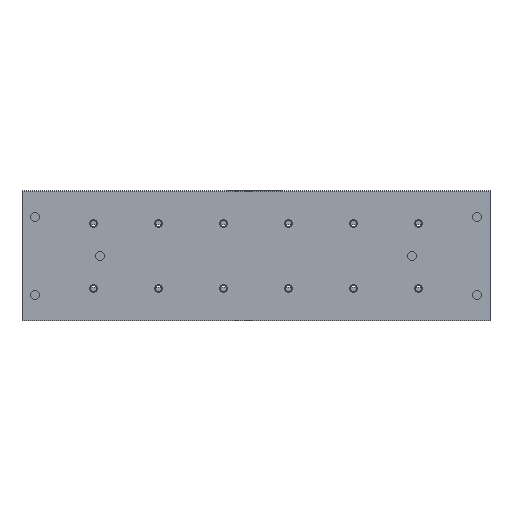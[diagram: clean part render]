
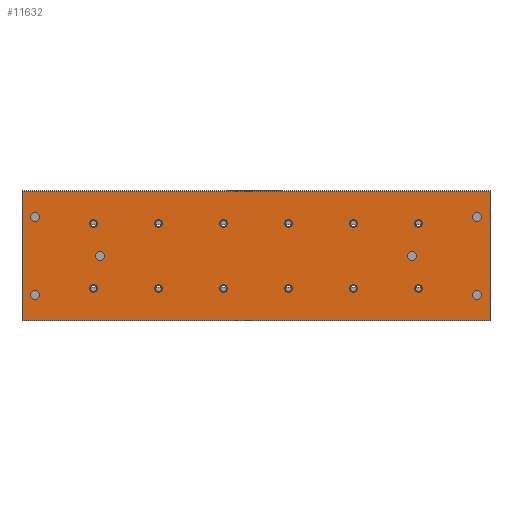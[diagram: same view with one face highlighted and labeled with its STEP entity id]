
A CAD part, front view. The second image highlights one B-rep face of the part: STEP entity #11632.
In plain terms, the highlighted planar face has unit normal (0, -1, 0).
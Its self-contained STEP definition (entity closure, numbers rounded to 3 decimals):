
#406=CIRCLE('',#12334,3.);
#407=CIRCLE('',#12335,3.);
#408=CIRCLE('',#12336,3.);
#409=CIRCLE('',#12337,3.);
#410=CIRCLE('',#12338,3.);
#411=CIRCLE('',#12339,3.);
#412=CIRCLE('',#12340,3.);
#413=CIRCLE('',#12341,3.);
#414=CIRCLE('',#12342,3.);
#415=CIRCLE('',#12343,3.);
#416=CIRCLE('',#12344,3.);
#417=CIRCLE('',#12345,3.);
#418=CIRCLE('',#12346,3.5);
#419=CIRCLE('',#12347,3.5);
#420=CIRCLE('',#12348,3.5);
#421=CIRCLE('',#12349,3.5);
#422=CIRCLE('',#12350,3.5);
#423=CIRCLE('',#12351,3.5);
#1224=ORIENTED_EDGE('',*,*,#4741,.F.);
#1225=ORIENTED_EDGE('',*,*,#4742,.F.);
#1226=ORIENTED_EDGE('',*,*,#4743,.F.);
#1227=ORIENTED_EDGE('',*,*,#4744,.F.);
#1228=ORIENTED_EDGE('',*,*,#4745,.F.);
#1229=ORIENTED_EDGE('',*,*,#4746,.F.);
#1230=ORIENTED_EDGE('',*,*,#4747,.F.);
#1231=ORIENTED_EDGE('',*,*,#4748,.F.);
#1232=ORIENTED_EDGE('',*,*,#4749,.F.);
#1233=ORIENTED_EDGE('',*,*,#4750,.F.);
#1234=ORIENTED_EDGE('',*,*,#4751,.F.);
#1235=ORIENTED_EDGE('',*,*,#4752,.F.);
#1236=ORIENTED_EDGE('',*,*,#4753,.F.);
#1237=ORIENTED_EDGE('',*,*,#4754,.F.);
#1238=ORIENTED_EDGE('',*,*,#4755,.T.);
#1239=ORIENTED_EDGE('',*,*,#4756,.F.);
#1240=ORIENTED_EDGE('',*,*,#4757,.F.);
#1241=ORIENTED_EDGE('',*,*,#4758,.F.);
#1242=ORIENTED_EDGE('',*,*,#4695,.T.);
#1243=ORIENTED_EDGE('',*,*,#4759,.F.);
#1244=ORIENTED_EDGE('',*,*,#4760,.F.);
#1245=ORIENTED_EDGE('',*,*,#4739,.T.);
#4695=EDGE_CURVE('',#6460,#6459,#7643,.T.);
#4739=EDGE_CURVE('',#6494,#6460,#7687,.T.);
#4741=EDGE_CURVE('',#6495,#6495,#406,.T.);
#4742=EDGE_CURVE('',#6496,#6496,#407,.T.);
#4743=EDGE_CURVE('',#6497,#6497,#408,.T.);
#4744=EDGE_CURVE('',#6498,#6498,#409,.T.);
#4745=EDGE_CURVE('',#6499,#6499,#410,.T.);
#4746=EDGE_CURVE('',#6500,#6500,#411,.T.);
#4747=EDGE_CURVE('',#6501,#6501,#412,.T.);
#4748=EDGE_CURVE('',#6502,#6502,#413,.T.);
#4749=EDGE_CURVE('',#6503,#6503,#414,.T.);
#4750=EDGE_CURVE('',#6504,#6504,#415,.T.);
#4751=EDGE_CURVE('',#6505,#6505,#416,.T.);
#4752=EDGE_CURVE('',#6506,#6506,#417,.T.);
#4753=EDGE_CURVE('',#6507,#6507,#418,.T.);
#4754=EDGE_CURVE('',#6508,#6508,#419,.T.);
#4755=EDGE_CURVE('',#6509,#6509,#420,.T.);
#4756=EDGE_CURVE('',#6510,#6510,#421,.T.);
#4757=EDGE_CURVE('',#6511,#6511,#422,.T.);
#4758=EDGE_CURVE('',#6512,#6512,#423,.T.);
#4759=EDGE_CURVE('',#6513,#6459,#7689,.T.);
#4760=EDGE_CURVE('',#6494,#6513,#7690,.T.);
#6459=VERTEX_POINT('',#17646);
#6460=VERTEX_POINT('',#17648);
#6494=VERTEX_POINT('',#17733);
#6495=VERTEX_POINT('',#17737);
#6496=VERTEX_POINT('',#17739);
#6497=VERTEX_POINT('',#17741);
#6498=VERTEX_POINT('',#17743);
#6499=VERTEX_POINT('',#17745);
#6500=VERTEX_POINT('',#17747);
#6501=VERTEX_POINT('',#17749);
#6502=VERTEX_POINT('',#17751);
#6503=VERTEX_POINT('',#17753);
#6504=VERTEX_POINT('',#17755);
#6505=VERTEX_POINT('',#17757);
#6506=VERTEX_POINT('',#17759);
#6507=VERTEX_POINT('',#17761);
#6508=VERTEX_POINT('',#17763);
#6509=VERTEX_POINT('',#17765);
#6510=VERTEX_POINT('',#17767);
#6511=VERTEX_POINT('',#17769);
#6512=VERTEX_POINT('',#17771);
#6513=VERTEX_POINT('',#17773);
#7643=LINE('',#17647,#8675);
#7687=LINE('',#17732,#8719);
#7689=LINE('',#17772,#8721);
#7690=LINE('',#17774,#8722);
#8675=VECTOR('',#13770,1000.);
#8719=VECTOR('',#13828,1000.);
#8721=VECTOR('',#13868,1000.);
#8722=VECTOR('',#13869,1000.);
#9689=EDGE_LOOP('',(#1224));
#9690=EDGE_LOOP('',(#1225));
#9691=EDGE_LOOP('',(#1226));
#9692=EDGE_LOOP('',(#1227));
#9693=EDGE_LOOP('',(#1228));
#9694=EDGE_LOOP('',(#1229));
#9695=EDGE_LOOP('',(#1230));
#9696=EDGE_LOOP('',(#1231));
#9697=EDGE_LOOP('',(#1232));
#9698=EDGE_LOOP('',(#1233));
#9699=EDGE_LOOP('',(#1234));
#9700=EDGE_LOOP('',(#1235));
#9701=EDGE_LOOP('',(#1236));
#9702=EDGE_LOOP('',(#1237));
#9703=EDGE_LOOP('',(#1238));
#9704=EDGE_LOOP('',(#1239));
#9705=EDGE_LOOP('',(#1240));
#9706=EDGE_LOOP('',(#1241));
#9707=EDGE_LOOP('',(#1242,#1243,#1244,#1245));
#10511=FACE_BOUND('',#9689,.T.);
#10512=FACE_BOUND('',#9690,.T.);
#10513=FACE_BOUND('',#9691,.T.);
#10514=FACE_BOUND('',#9692,.T.);
#10515=FACE_BOUND('',#9693,.T.);
#10516=FACE_BOUND('',#9694,.T.);
#10517=FACE_BOUND('',#9695,.T.);
#10518=FACE_BOUND('',#9696,.T.);
#10519=FACE_BOUND('',#9697,.T.);
#10520=FACE_BOUND('',#9698,.T.);
#10521=FACE_BOUND('',#9699,.T.);
#10522=FACE_BOUND('',#9700,.T.);
#10523=FACE_BOUND('',#9701,.T.);
#10524=FACE_BOUND('',#9702,.T.);
#10525=FACE_BOUND('',#9703,.T.);
#10526=FACE_BOUND('',#9704,.T.);
#10527=FACE_BOUND('',#9705,.T.);
#10528=FACE_BOUND('',#9706,.T.);
#10529=FACE_BOUND('',#9707,.T.);
#11333=PLANE('',#12333);
#11632=ADVANCED_FACE('',(#10511,#10512,#10513,#10514,#10515,#10516,#10517,
#10518,#10519,#10520,#10521,#10522,#10523,#10524,#10525,#10526,#10527,#10528,
#10529),#11333,.F.);
#12333=AXIS2_PLACEMENT_3D('',#17735,#13830,#13831);
#12334=AXIS2_PLACEMENT_3D('',#17736,#13832,#13833);
#12335=AXIS2_PLACEMENT_3D('',#17738,#13834,#13835);
#12336=AXIS2_PLACEMENT_3D('',#17740,#13836,#13837);
#12337=AXIS2_PLACEMENT_3D('',#17742,#13838,#13839);
#12338=AXIS2_PLACEMENT_3D('',#17744,#13840,#13841);
#12339=AXIS2_PLACEMENT_3D('',#17746,#13842,#13843);
#12340=AXIS2_PLACEMENT_3D('',#17748,#13844,#13845);
#12341=AXIS2_PLACEMENT_3D('',#17750,#13846,#13847);
#12342=AXIS2_PLACEMENT_3D('',#17752,#13848,#13849);
#12343=AXIS2_PLACEMENT_3D('',#17754,#13850,#13851);
#12344=AXIS2_PLACEMENT_3D('',#17756,#13852,#13853);
#12345=AXIS2_PLACEMENT_3D('',#17758,#13854,#13855);
#12346=AXIS2_PLACEMENT_3D('',#17760,#13856,#13857);
#12347=AXIS2_PLACEMENT_3D('',#17762,#13858,#13859);
#12348=AXIS2_PLACEMENT_3D('',#17764,#13860,#13861);
#12349=AXIS2_PLACEMENT_3D('',#17766,#13862,#13863);
#12350=AXIS2_PLACEMENT_3D('',#17768,#13864,#13865);
#12351=AXIS2_PLACEMENT_3D('',#17770,#13866,#13867);
#13770=DIRECTION('',(0.,0.,-1.));
#13828=DIRECTION('',(-1.,0.,0.));
#13830=DIRECTION('',(0.,1.,0.));
#13831=DIRECTION('',(0.,0.,1.));
#13832=DIRECTION('',(0.,-1.,0.));
#13833=DIRECTION('',(0.,0.,-1.));
#13834=DIRECTION('',(0.,-1.,0.));
#13835=DIRECTION('',(0.,0.,-1.));
#13836=DIRECTION('',(0.,-1.,0.));
#13837=DIRECTION('',(0.,0.,-1.));
#13838=DIRECTION('',(0.,-1.,0.));
#13839=DIRECTION('',(0.,0.,-1.));
#13840=DIRECTION('',(0.,-1.,0.));
#13841=DIRECTION('',(0.,0.,-1.));
#13842=DIRECTION('',(0.,-1.,0.));
#13843=DIRECTION('',(0.,0.,-1.));
#13844=DIRECTION('',(0.,-1.,0.));
#13845=DIRECTION('',(0.,0.,-1.));
#13846=DIRECTION('',(0.,-1.,0.));
#13847=DIRECTION('',(0.,0.,-1.));
#13848=DIRECTION('',(0.,-1.,0.));
#13849=DIRECTION('',(0.,0.,-1.));
#13850=DIRECTION('',(0.,-1.,0.));
#13851=DIRECTION('',(0.,0.,-1.));
#13852=DIRECTION('',(0.,-1.,0.));
#13853=DIRECTION('',(0.,0.,-1.));
#13854=DIRECTION('',(0.,-1.,0.));
#13855=DIRECTION('',(0.,0.,-1.));
#13856=DIRECTION('',(0.,-1.,0.));
#13857=DIRECTION('',(0.,0.,-1.));
#13858=DIRECTION('',(0.,-1.,0.));
#13859=DIRECTION('',(0.,0.,-1.));
#13860=DIRECTION('',(0.,1.,0.));
#13861=DIRECTION('',(0.,0.,1.));
#13862=DIRECTION('',(0.,-1.,0.));
#13863=DIRECTION('',(0.,0.,-1.));
#13864=DIRECTION('',(0.,-1.,0.));
#13865=DIRECTION('',(0.,0.,-1.));
#13866=DIRECTION('',(0.,-1.,0.));
#13867=DIRECTION('',(0.,0.,-1.));
#13868=DIRECTION('',(-1.,0.,0.));
#13869=DIRECTION('',(0.,0.,-1.));
#17646=CARTESIAN_POINT('',(0.,0.,-49.7));
#17647=CARTESIAN_POINT('',(0.,0.,49.7));
#17648=CARTESIAN_POINT('',(0.,0.,49.7));
#17732=CARTESIAN_POINT('',(360.,0.,49.7));
#17733=CARTESIAN_POINT('',(360.,0.,49.7));
#17735=CARTESIAN_POINT('',(360.,0.,49.7));
#17736=CARTESIAN_POINT('',(305.,0.,-25.));
#17737=CARTESIAN_POINT('',(305.,0.,-28.));
#17738=CARTESIAN_POINT('',(305.,0.,25.));
#17739=CARTESIAN_POINT('',(305.,0.,22.));
#17740=CARTESIAN_POINT('',(55.,0.,-25.));
#17741=CARTESIAN_POINT('',(55.,0.,-28.));
#17742=CARTESIAN_POINT('',(55.,0.,25.));
#17743=CARTESIAN_POINT('',(55.,0.,22.));
#17744=CARTESIAN_POINT('',(105.,0.,-25.));
#17745=CARTESIAN_POINT('',(105.,0.,-28.));
#17746=CARTESIAN_POINT('',(105.,0.,25.));
#17747=CARTESIAN_POINT('',(105.,0.,22.));
#17748=CARTESIAN_POINT('',(255.,0.,-25.));
#17749=CARTESIAN_POINT('',(255.,0.,-28.));
#17750=CARTESIAN_POINT('',(255.,0.,25.));
#17751=CARTESIAN_POINT('',(255.,0.,22.));
#17752=CARTESIAN_POINT('',(205.,0.,-25.));
#17753=CARTESIAN_POINT('',(205.,0.,-28.));
#17754=CARTESIAN_POINT('',(205.,0.,25.));
#17755=CARTESIAN_POINT('',(205.,0.,22.));
#17756=CARTESIAN_POINT('',(155.,0.,-25.));
#17757=CARTESIAN_POINT('',(155.,0.,-28.));
#17758=CARTESIAN_POINT('',(155.,0.,25.));
#17759=CARTESIAN_POINT('',(155.,0.,22.));
#17760=CARTESIAN_POINT('',(300.,0.,0.));
#17761=CARTESIAN_POINT('',(300.,0.,-3.5));
#17762=CARTESIAN_POINT('',(60.,0.,0.));
#17763=CARTESIAN_POINT('',(60.,0.,-3.5));
#17764=CARTESIAN_POINT('',(350.,0.,30.));
#17765=CARTESIAN_POINT('',(350.,0.,33.5));
#17766=CARTESIAN_POINT('',(350.,0.,-30.));
#17767=CARTESIAN_POINT('',(350.,0.,-33.5));
#17768=CARTESIAN_POINT('',(10.,0.,-30.));
#17769=CARTESIAN_POINT('',(10.,0.,-33.5));
#17770=CARTESIAN_POINT('',(10.,0.,30.));
#17771=CARTESIAN_POINT('',(10.,0.,26.5));
#17772=CARTESIAN_POINT('',(360.,0.,-49.7));
#17773=CARTESIAN_POINT('',(360.,0.,-49.7));
#17774=CARTESIAN_POINT('',(360.,0.,49.7));
